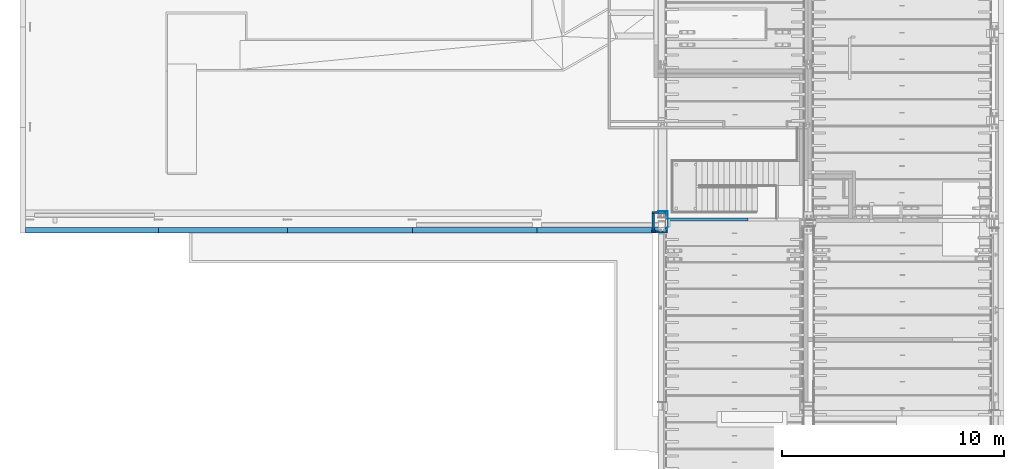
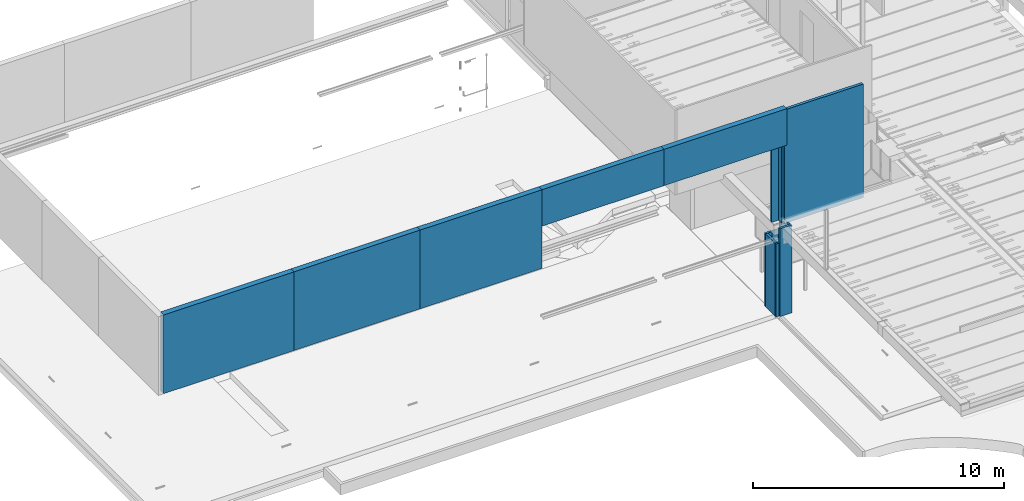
# One storey, part 67 of 230: 15 walls.
"""IFC4X3_ADD2 building model written with IfcOpenShell, lengths in millimetres."""

from ifc_helpers import new_model, si_unit, direction, frame, frame_2d, origin_with_axes, place, context, subcontext, project, spatial, polyline, rectangle, outline, extrude, clip, bounded_halfspace, material, layer, layer_set, type_object, element, save


model = new_model("IFC4X3_ADD2")

# Units and contexts
model_context = context("Model", 3, precision=1e-05, world=origin_with_axes(), true_north=direction((0.0, 1.0)))
body_context = subcontext(model_context, "Body", "Model", "MODEL_VIEW")
ifc_project = project(units=[si_unit("LENGTHUNIT", "METRE", prefix="MILLI"), si_unit("AREAUNIT", "SQUARE_METRE"), si_unit("VOLUMEUNIT", "CUBIC_METRE"), si_unit("PLANEANGLEUNIT", "RADIAN"), si_unit("TIMEUNIT", "SECOND"), si_unit("MASSUNIT", "GRAM")], contexts=[model_context])

# Site, building, storey
site_placement = place(None, origin_with_axes())
site = spatial("IfcSite", under=ifc_project, at=site_placement, Name="Site", CompositionType="ELEMENT")
building_placement = place(site_placement, origin_with_axes())
building = spatial("IfcBuilding", under=site, at=building_placement, Name="IFC Building Story")
storey_placement = place(building_placement, origin_with_axes())
storey = spatial("IfcBuildingStorey", under=building, at=storey_placement, Name="ETAGE 00 (0)", Elevation=0.0)

# Walls
ifc_material_1 = material(Name="BS_28_Ossature en béton armé - Eléments préfabriqués(panneau façade)")
ifc_layer_1 = layer(ifc_material_1, 90.0)
ifc_material_2 = material(Name="BS_21_Isolation des murs extérieurs")
ifc_layer_2 = layer(ifc_material_2, 100.0)
ifc_layer_3 = layer(ifc_material_1, 60.0)
ifc_layer_set_1 = layer_set([ifc_layer_1, ifc_layer_2, ifc_layer_3], Name="Mur de base:BS_21_WA_BTpréfab90-ISO100-BTlissépréfab60")
wall_type_1 = type_object("IfcWallType", Name="Mur de base:BS_21_WA_BTpréfab90-ISO100-BTlissépréfab60 250", PredefinedType="NOTDEFINED", material=ifc_layer_set_1)
wall_1_placement = place(storey_placement, origin_with_axes())
element("IfcWall", 1, at=wall_1_placement, inside=storey, type_object=wall_type_1, Name="Mur de base:BS_21_WA_BTpréfab90-ISO100-BTlissépréfab60", ObjectType="Mur de base:BS_21_WA_BTpréfab90-ISO100-BTlissépréfab60", context=body_context, shape_type="SweptSolid", body=[
    extrude(rectangle(XDim=5649.99999999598, YDim=250.0, at=frame_2d((0.0, 5.95523630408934e-12), x_axis=(1.0, 0.0))), frame((30576.68947817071, -125.000000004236, 8220.0), z_axis=(0.0, 0.0, 1.0), x_axis=(1.0, 0.0, 0.0)), (0.0, 0.0, 1.0), 1770.0),
])
wall_2_placement = place(storey_placement, origin_with_axes())
element("IfcWall", 2, at=wall_2_placement, inside=storey, type_object=wall_type_1, Name="Mur de base:BS_21_WA_BTpréfab90-ISO100-BTlissépréfab60", ObjectType="Mur de base:BS_21_WA_BTpréfab90-ISO100-BTlissépréfab60", context=body_context, shape_type="SweptSolid", body=[
    extrude(rectangle(XDim=5800.00000000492, YDim=250.0, at=frame_2d((0.0, 5.95523630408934e-12), x_axis=(1.0, 0.0))), frame((13651.68947817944, -125.000000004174, 6166.0), z_axis=(0.0, 0.0, 1.0), x_axis=(1.0, 0.0, 0.0)), (0.0, 0.0, 1.0), 3824.0),
])
wall_3_placement = place(storey_placement, origin_with_axes())
element("IfcWall", 3, at=wall_3_placement, inside=storey, type_object=wall_type_1, Name="Mur de base:BS_21_WA_BTpréfab90-ISO100-BTlissépréfab60", ObjectType="Mur de base:BS_21_WA_BTpréfab90-ISO100-BTlissépréfab60", context=body_context, shape_type="SweptSolid", body=[
    extrude(rectangle(XDim=5985.499999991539, YDim=250.0, at=frame_2d((0.0, 5.95523630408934e-12), x_axis=(1.0, 0.0))), frame((7758.93947818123, -125.000000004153, 6166.0), z_axis=(0.0, 0.0, 1.0), x_axis=(1.0, 0.0, 0.0)), (0.0, 0.0, 1.0), 3824.0),
])
wall_4_placement = place(storey_placement, origin_with_axes())
element("IfcWall", 4, at=wall_4_placement, inside=storey, type_object=wall_type_1, Name="Mur de base:BS_21_WA_BTpréfab90-ISO100-BTlissépréfab60", ObjectType="Mur de base:BS_21_WA_BTpréfab90-ISO100-BTlissépréfab60", context=body_context, shape_type="SweptSolid", body=[
    extrude(rectangle(XDim=5599.999999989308, YDim=250.0, at=frame_2d((0.0, 5.95523630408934e-12), x_axis=(1.0, 0.0))), frame((19351.68947817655, -125.000000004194, 6166.0), z_axis=(0.0, 0.0, 1.0), x_axis=(1.0, 0.0, 0.0)), (0.0, 0.0, 1.0), 3824.0),
])
wall_5_placement = place(storey_placement, origin_with_axes())
element("IfcWall", 5, at=wall_5_placement, inside=storey, type_object=wall_type_1, Name="Mur de base:BS_21_WA_BTpréfab90-ISO100-BTlissépréfab60", ObjectType="Mur de base:BS_21_WA_BTpréfab90-ISO100-BTlissépréfab60", context=body_context, shape_type="SweptSolid", body=[
    extrude(rectangle(XDim=5600.000000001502, YDim=250.0, at=frame_2d((0.0, 5.95523630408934e-12), x_axis=(1.0, 0.0))), frame((24951.68947817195, -125.000000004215, 8220.0), z_axis=(0.0, 0.0, 1.0), x_axis=(1.0, 0.0, 0.0)), (0.0, 0.0, 1.0), 1770.0),
])
ifc_material_3 = material(Name="BS_42_Revêtement mural en plaques - type A (gyproc)")
ifc_layer_4 = layer(ifc_material_3, 12.5)
ifc_material_4 = material(Name="BS_42_Panneau OSB")
ifc_layer_5 = layer(ifc_material_4, 18.0)
ifc_material_5 = material(Name="BS_42_ContreCloison-Laine minérale")
ifc_layer_6 = layer(ifc_material_5, 75.0)
ifc_layer_7 = layer(ifc_material_4, 18.0)
ifc_layer_8 = layer(ifc_material_3, 12.5)
ifc_layer_set_2 = layer_set([ifc_layer_4, ifc_layer_5, ifc_layer_6, ifc_layer_7, ifc_layer_8], Name="Mur de base:BS_22_WA_C1")
wall_type_2 = type_object("IfcWallType", Name="Mur de base:BS_22_WA_C1 136", PredefinedType="NOTDEFINED", material=ifc_layer_set_2)
wall_6_placement = place(storey_placement, origin_with_axes())
element("IfcWall", 6, at=wall_6_placement, inside=storey, type_object=wall_type_2, Name="Mur de base:BS_22_WA_C1", ObjectType="Mur de base:BS_22_WA_C1", context=body_context, shape_type="Clipping", body=[
    clip(extrude(outline(polyline([(-1817.345300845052, -68.0), (-1817.345300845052, 68.0), (1817.345300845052, 68.0), (1817.345300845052, -68.0), (-1817.345300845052, -68.0)])), frame((35417.53355560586, 362.50000000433, 4000.0), z_axis=(0.0, 0.0, 1.0), x_axis=(1.0, 0.0, 0.0)), (0.0, 0.0, 1.0), 5518.706573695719), bounded_halfspace(frame((0.0, 142.8147277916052, 9520.981852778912), z_axis=(0.0, 0.01499831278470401, 0.9998875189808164), x_axis=(1.0, 0.0, 0.0)), False, frame((35417.53355560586, 362.50000000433, 4000.0), z_axis=(0.0, 0.0, 1.0), x_axis=(1.0, 0.0, 0.0)), polyline([(1817.345300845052, 68.0), (-1817.345300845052, 68.0), (-1817.345300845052, -68.0), (1817.345300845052, -68.0), (1817.345300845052, 68.0)]))),
])
ifc_layer_9 = layer(ifc_material_5, 37.5)
ifc_layer_10 = layer(ifc_material_5, 37.5)
ifc_layer_11 = layer(ifc_material_4, 18.0)
ifc_layer_12 = layer(ifc_material_3, 12.5)
ifc_layer_set_3 = layer_set([ifc_layer_9, ifc_layer_10, ifc_layer_11, ifc_layer_12], Name="Mur de base:BS_22_WA_CC3")
wall_type_3 = type_object("IfcWallType", Name="Mur de base:BS_22_WA_CC3 105.5", PredefinedType="NOTDEFINED", material=ifc_layer_set_3)
wall_7_placement = place(storey_placement, origin_with_axes())
element("IfcWall", 7, at=wall_7_placement, inside=storey, type_object=wall_type_3, Name="Mur de base:BS_22_WA_CC3", ObjectType="Mur de base:BS_22_WA_CC3", context=body_context, shape_type="SweptSolid", body=[
    extrude(rectangle(XDim=280.0, YDim=105.5, at=frame_2d((0.0, 5.95523630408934e-12), x_axis=(1.0, 0.0))), frame((33070.1882547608, 672.249963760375, 0.0), z_axis=(0.0, 0.0, 1.0), x_axis=(1.0, 0.0, 0.0)), (0.0, 0.0, 1.0), 3545.0),
])
wall_8_placement = place(storey_placement, origin_with_axes())
element("IfcWall", 8, at=wall_8_placement, inside=storey, type_object=wall_type_3, Name="Mur de base:BS_22_WA_CC3", ObjectType="Mur de base:BS_22_WA_CC3", context=body_context, shape_type="SweptSolid", body=[
    extrude(rectangle(XDim=739.499963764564, YDim=105.5, at=frame_2d((0.0, 5.95523630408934e-12), x_axis=(0.0, 1.0))), frame((32982.9382547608, 249.749981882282, 0.0), z_axis=(0.0, 0.0, 1.0), x_axis=(1.0, 0.0, 0.0)), (0.0, 0.0, 1.0), 3545.0),
])
wall_9_placement = place(storey_placement, origin_with_axes())
element("IfcWall", 9, at=wall_9_placement, inside=storey, type_object=wall_type_3, Name="Mur de base:BS_22_WA_CC3", ObjectType="Mur de base:BS_22_WA_CC3", context=body_context, shape_type="SweptSolid", body=[
    extrude(rectangle(XDim=548.498776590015, YDim=105.5, at=frame_2d((0.0, 5.95523630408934e-12), x_axis=(1.0, 0.0))), frame((33350.93886646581, -207.250000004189, 0.0), z_axis=(0.0, 0.0, 1.0), x_axis=(1.0, 0.0, 0.0)), (0.0, 0.0, 1.0), 4270.0),
])
wall_10_placement = place(storey_placement, origin_with_axes())
element("IfcWall", 10, at=wall_10_placement, inside=storey, type_object=wall_type_3, Name="Mur de base:BS_22_WA_CC3", ObjectType="Mur de base:BS_22_WA_CC3", context=body_context, shape_type="SweptSolid", body=[
    extrude(rectangle(XDim=154.500000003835, YDim=105.5000000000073, at=frame_2d((0.0, 5.95523630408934e-12), x_axis=(0.0, 1.0))), frame((33572.4382547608, -77.25000000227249, 0.0), z_axis=(0.0, 0.0, 1.0), x_axis=(1.0, 0.0, 0.0)), (0.0, 0.0, 1.0), 4270.0),
])
wall_11_placement = place(storey_placement, origin_with_axes())
element("IfcWall", 11, at=wall_11_placement, inside=storey, type_object=wall_type_3, Name="Mur de base:BS_22_WA_CC3", ObjectType="Mur de base:BS_22_WA_CC3", context=body_context, shape_type="SweptSolid", body=[
    extrude(rectangle(XDim=324.9999999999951, YDim=105.5000000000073, at=frame_2d((0.0, 5.95523630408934e-12), x_axis=(0.0, 1.0))), frame((33572.4382547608, 562.499963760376, 4000.0), z_axis=(0.0, 0.0, 1.0), x_axis=(1.0, 0.0, 0.0)), (0.0, 0.0, 1.0), 3666.5),
])
wall_12_placement = place(storey_placement, origin_with_axes())
element("IfcWall", 12, at=wall_12_placement, inside=storey, type_object=wall_type_3, Name="Mur de base:BS_22_WA_CC3", ObjectType="Mur de base:BS_22_WA_CC3", context=body_context, shape_type="SweptSolid", body=[
    extrude(rectangle(XDim=313.5002547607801, YDim=105.5000000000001, at=frame_2d((0.0, 5.95523630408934e-12), x_axis=(1.0, 0.0))), frame((33362.9381273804, 672.2499637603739, 4000.0), z_axis=(0.0, 0.0, 1.0), x_axis=(1.0, 0.0, 0.0)), (0.0, 0.0, 1.0), 4640.0),
])
ifc_layer_13 = layer(ifc_material_3, 12.5)
ifc_layer_14 = layer(ifc_material_3, 12.5)
ifc_layer_set_4 = layer_set([ifc_layer_13, ifc_layer_14], Name="Mur de base:BS_22_WA_CC1")
wall_type_4 = type_object("IfcWallType", Name="Mur de base:BS_22_WA_CC1 25", PredefinedType="NOTDEFINED", material=ifc_layer_set_4)
wall_13_placement = place(storey_placement, origin_with_axes())
element("IfcWall", 13, at=wall_13_placement, inside=storey, type_object=wall_type_4, Name="Mur de base:BS_22_WA_CC1", ObjectType="Mur de base:BS_22_WA_CC1", context=body_context, shape_type="SweptSolid", body=[
    extrude(rectangle(XDim=724.999963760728, YDim=25.00000000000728, at=frame_2d((0.0, 5.95523630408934e-12), x_axis=(0.0, 1.0))), frame((33612.6882547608, 362.499981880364, 0.0), z_axis=(0.0, 0.0, 1.0), x_axis=(1.0, 0.0, 0.0)), (0.0, 0.0, 1.0), 4000.0),
])
wall_14_placement = place(storey_placement, origin_with_axes())
element("IfcWall", 14, at=wall_14_placement, inside=storey, type_object=wall_type_4, Name="Mur de base:BS_22_WA_CC1", ObjectType="Mur de base:BS_22_WA_CC1", context=body_context, shape_type="SweptSolid", body=[
    extrude(rectangle(XDim=390.0000000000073, YDim=25.0, at=frame_2d((0.0, 5.95523630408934e-12), x_axis=(1.0, 0.0))), frame((33405.1882547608, 712.499963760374, 0.0), z_axis=(0.0, 0.0, 1.0), x_axis=(1.0, 0.0, 0.0)), (0.0, 0.0, 1.0), 3535.0),
])
ifc_material_6 = material(Name="BS_16_Isolation des murs extérieurs")
wall_type_5 = type_object("IfcWallType", Name="BS_16_Isolation des murs extérieurs 80", PredefinedType="NOTDEFINED", material=ifc_material_6)
wall_15_placement = place(storey_placement, origin_with_axes())
element("IfcWall", 15, at=wall_15_placement, inside=storey, type_object=wall_type_5, Name="DG_JonctionMursRideau:DG_JonctionMursRideau", ObjectType="DG_JonctionMursRideau:DG_JonctionMursRideau", context=body_context, shape_type="SweptSolid", body=[
    extrude(rectangle(XDim=149.9999999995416, YDim=79.9999999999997, at=frame_2d((0.0, 5.95523630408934e-12), x_axis=(1.0, 0.0))), frame((33001.68947817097, -160.0, 0.0), z_axis=(0.0, 0.0, 1.0), x_axis=(1.0, 0.0, 0.0)), (0.0, 0.0, 1.0), 3545.0),
])

save(model, "model.ifc")
